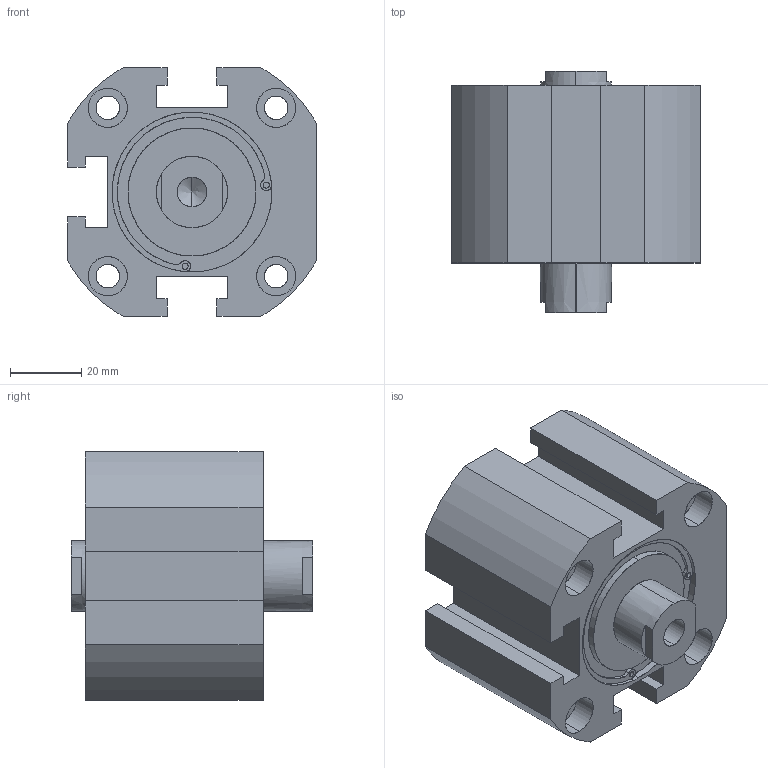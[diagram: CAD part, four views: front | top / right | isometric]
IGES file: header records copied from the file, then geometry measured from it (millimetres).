
Start section: SolidWorks IGES file using analytic representation for surfaces
Global section: file name: C:\Users\Toshiba\Desktop\XG#7-50D-10.IGS; native system: SolidWorks 2014; preprocessor: SolidWorks 2014; author: Toshiba; date: 160524.095949; units: millimetre
Bounding box: 70 x 68 x 70 mm (x, y, z)
Surface area: 33374.2 mm2 (no closed solid volume)
Topology: 0 solids, 0 shells, 149 faces, 2718 edges, 2710 vertices
Faces by surface type: revolution 89, bspline 60
